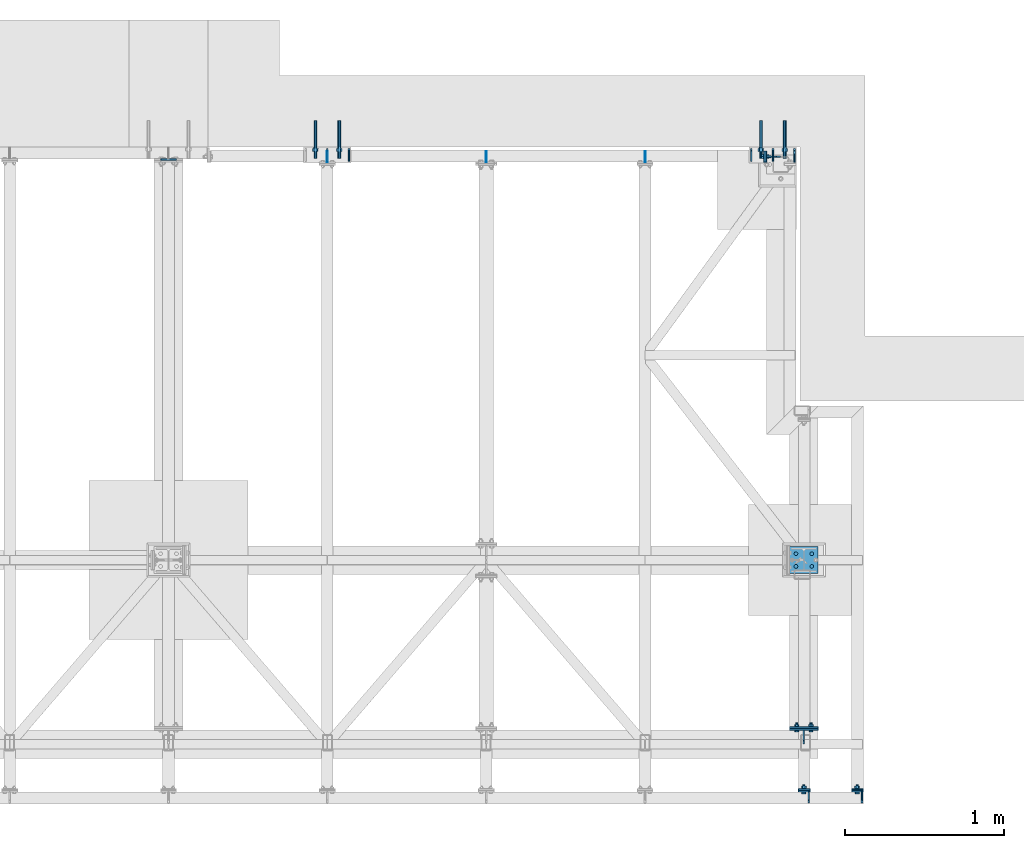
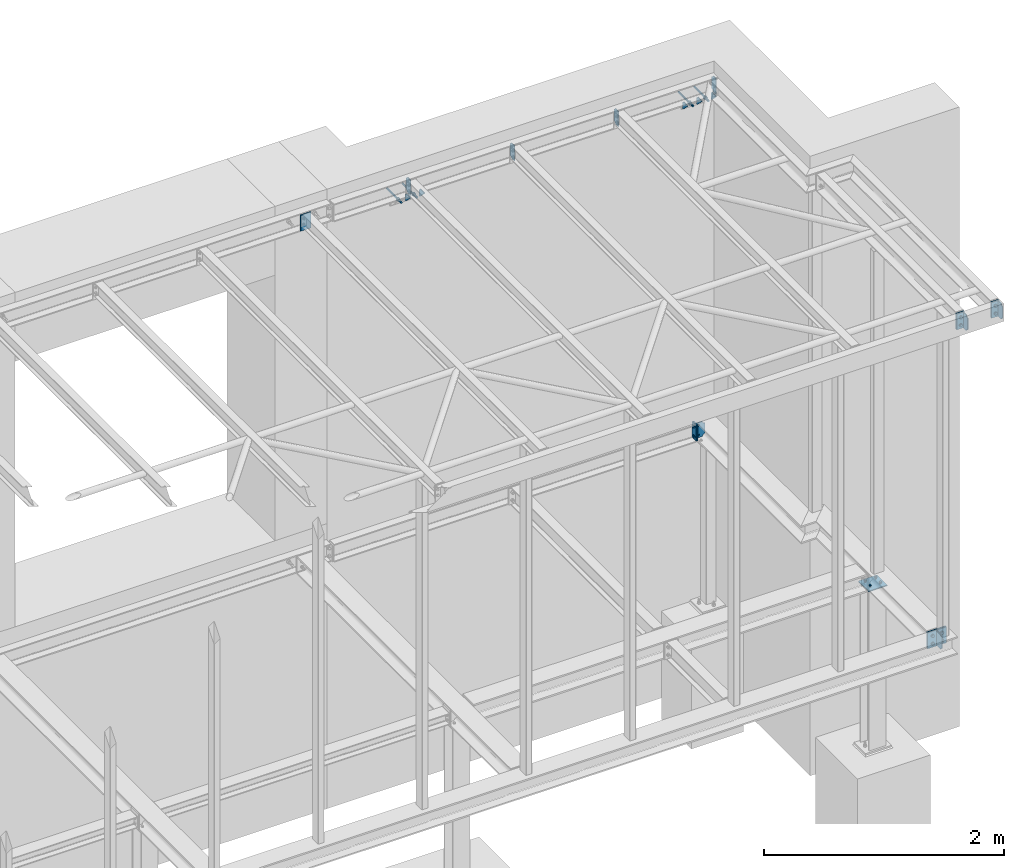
# One storey, part 21 of 23: 23 discrete accessories, 7 mechanical fasteners, 12 elements without a shape of their own.
"""IFC2X3 building model written with IfcOpenShell, lengths in millimetres."""

import ifcopenshell
import ifcopenshell.guid

model = None  # the IFC model being written
_history = None  # IfcOwnerHistory: only IFC2X3 demands one
_inside = {}  # id of a spatial element -> (the spatial element, [elements in it])
_under = {}  # id of a project, library or spatial element -> (it, [spatial elements below it])
_declared = {}  # id of a project -> (the project, [libraries it declares])
_typed = {}  # id of a type object -> (the type object, [elements of that type])
_made_of = {}  # id of a material, layer set ... -> (it, [elements and type objects made of it])


def new_model(schema):
    """Start an empty IFC model of exactly this schema.

    Asked for "IFC4X3", IfcOpenShell would pick the latest addendum, in which some entities
    have other attributes; the version numbers below select the first issue.
    IFC2X3 requires an IfcOwnerHistory on every rooted entity: one is made here for all.
    """
    global model, _history
    if schema == "IFC4X3":
        model = ifcopenshell.file(schema_version=(4, 3, 0, 0))
    else:
        model = ifcopenshell.file(schema=schema)
    _inside.clear()
    _under.clear()
    _declared.clear()
    _typed.clear()
    _made_of.clear()
    _history = None
    if model.schema == "IFC2X3":
        org = make("IfcOrganization", Name="unknown")
        user = make(
            "IfcPersonAndOrganization",
            ThePerson=make("IfcPerson", FamilyName="unknown"),
            TheOrganization=org,
        )
        app = make(
            "IfcApplication",
            ApplicationDeveloper=org,
            Version="unknown",
            ApplicationFullName="unknown",
            ApplicationIdentifier="unknown",
        )
        _history = make(
            "IfcOwnerHistory",
            OwningUser=user,
            OwningApplication=app,
            ChangeAction="ADDED",
            CreationDate=0,
        )
    return model


def make(cls, **values):
    """One entity of the class cls with the attributes given. An attribute that is None is left unset."""
    return model.create_entity(
        cls, **{name: value for name, value in values.items() if value is not None}
    )


def rooted(cls, **values):
    """An entity with a GlobalId (a new one), such as an element, a storey or a relation."""
    return make(cls, GlobalId=ifcopenshell.guid.new(), OwnerHistory=_history, **values)


def si_unit(unit_type, name, prefix=None):
    """IfcSIUnit, for example si_unit("LENGTHUNIT", "METRE", prefix="MILLI")."""
    return make("IfcSIUnit", UnitType=unit_type, Prefix=prefix, Name=name)


def assignment(units):
    """IfcUnitAssignment: the units of a project."""
    return None if units is None else make("IfcUnitAssignment", Units=units)


def point(xyz):
    """IfcCartesianPoint."""
    return None if xyz is None else make("IfcCartesianPoint", Coordinates=xyz)


def direction(xyz):
    """IfcDirection."""
    return None if xyz is None else make("IfcDirection", DirectionRatios=xyz)


def frame(location, z_axis=None, x_axis=None):
    """IfcAxis2Placement3D, a coordinate frame: its origin and axes. An axis left out is left unset."""
    return make(
        "IfcAxis2Placement3D",
        Location=point(location),
        Axis=direction(z_axis),
        RefDirection=direction(x_axis),
    )


def frame_2d(location, x_axis=None):
    """IfcAxis2Placement2D, a coordinate frame in the plane: its origin and x axis."""
    return make(
        "IfcAxis2Placement2D", Location=point(location), RefDirection=direction(x_axis)
    )


def origin_with_axes():
    """The frame at (0, 0, 0) with the z axis (0, 0, 1) and the x axis (1, 0, 0) written out."""
    return frame((0.0, 0.0, 0.0), z_axis=(0.0, 0.0, 1.0), x_axis=(1.0, 0.0, 0.0))


def origin_2d_with_axis():
    """The frame at (0, 0) in the plane with the x axis (1, 0) written out."""
    return frame_2d((0.0, 0.0), x_axis=(1.0, 0.0))


def place(relative_to, where):
    """IfcLocalPlacement: puts the frame where relative to a parent placement (None: the world)."""
    return make(
        "IfcLocalPlacement", PlacementRelTo=relative_to, RelativePlacement=where
    )


def context(
    kind, dimensions, precision=None, world=None, true_north=None, identifier=None
):
    """IfcGeometricRepresentationContext, for example the 3D "Model" context."""
    return make(
        "IfcGeometricRepresentationContext",
        ContextIdentifier=identifier,
        ContextType=kind,
        CoordinateSpaceDimension=dimensions,
        Precision=precision,
        WorldCoordinateSystem=world,
        TrueNorth=true_north,
    )


def subcontext(parent, identifier, kind, view, scale=None):
    """IfcGeometricRepresentationSubContext, for example "Body" below "Model"."""
    return make(
        "IfcGeometricRepresentationSubContext",
        ContextIdentifier=identifier,
        ContextType=kind,
        ParentContext=parent,
        TargetScale=scale,
        TargetView=view,
    )


def project(units=None, contexts=None):
    """IfcProject with its units and contexts."""
    return rooted(
        "IfcProject",
        Name="project",
        RepresentationContexts=contexts,
        UnitsInContext=assignment(units),
    )


def spatial(cls, under=None, at=None, **own):
    """A site, building, storey or space (cls), placed at a placement, below another one or the project."""
    s = rooted(cls, ObjectPlacement=at, **own)
    if under is not None:
        _under.setdefault(under.id(), (under, []))[1].append(s)
    return s


def polyline(points):
    """IfcPolyline through the points."""
    return make("IfcPolyline", Points=[point(p) for p in points])


def circle_curve(where, radius):
    """IfcCircle in the frame where."""
    return make("IfcCircle", Position=where, Radius=radius)


def parameter(value):
    """IfcParameterValue: where a trimmed curve begins or ends, as a parameter of its basis curve."""
    return model.create_entity("IfcParameterValue", value)


def trimmed(basis, trim1, trim2, sense, master):
    """IfcTrimmedCurve: the piece of a basis curve between two trims."""
    return make(
        "IfcTrimmedCurve",
        BasisCurve=basis,
        Trim1=trim1,
        Trim2=trim2,
        SenseAgreement=sense,
        MasterRepresentation=master,
    )


def segment(curve, same_sense, transition):
    """IfcCompositeCurveSegment."""
    return make(
        "IfcCompositeCurveSegment",
        Transition=transition,
        SameSense=same_sense,
        ParentCurve=curve,
    )


def composite_curve(segments, self_intersect=None):
    """IfcCompositeCurve: segments joined end to end."""
    return make("IfcCompositeCurve", Segments=segments, SelfIntersect=self_intersect)


def profile(cls, at=None, kind="AREA", **sizes):
    """A parametric profile (cls). Its sizes go by their IFC names, for example OverallWidth=200.0."""
    return make(cls, ProfileType=kind, Position=at, **sizes)


def circle(**sizes):
    """IfcCircleProfileDef."""
    return profile("IfcCircleProfileDef", **sizes)


def outline(outer, holes=None, kind="AREA"):
    """IfcArbitraryClosedProfileDef: a profile drawn as a closed curve; with holes, ...WithVoids."""
    if holes is None:
        return make("IfcArbitraryClosedProfileDef", ProfileType=kind, OuterCurve=outer)
    return make(
        "IfcArbitraryProfileDefWithVoids",
        ProfileType=kind,
        OuterCurve=outer,
        InnerCurves=holes,
    )


def extrude(swept, where, along, depth):
    """IfcExtrudedAreaSolid: the profile swept, set in the frame where, extruded along a direction by depth."""
    return make(
        "IfcExtrudedAreaSolid",
        SweptArea=swept,
        Position=where,
        ExtrudedDirection=direction(along),
        Depth=depth,
    )


def shape(context_of_items, identifier, shape_type, items):
    """IfcShapeRepresentation: the items that make up one representation, for example the "Body"."""
    return make(
        "IfcShapeRepresentation",
        ContextOfItems=context_of_items,
        RepresentationIdentifier=identifier,
        RepresentationType=shape_type,
        Items=items,
    )


def source(mapping_origin, context_of_items, identifier, shape_type, items):
    """IfcRepresentationMap: a shape defined once, which mapped items show again and again."""
    return make(
        "IfcRepresentationMap",
        MappingOrigin=mapping_origin,
        MappedRepresentation=shape(context_of_items, identifier, shape_type, items),
    )


def transform(
    local_origin,
    x_axis=None,
    y_axis=None,
    z_axis=None,
    scale=None,
    scale2=None,
    scale3=None,
    uniform=True,
):
    """IfcCartesianTransformationOperator3D, or its non-uniform kind. x_axis, y_axis, z_axis: its Axis1, 2, 3."""
    if uniform:
        return make(
            "IfcCartesianTransformationOperator3D",
            Axis1=direction(x_axis),
            Axis2=direction(y_axis),
            LocalOrigin=point(local_origin),
            Scale=scale,
            Axis3=direction(z_axis),
        )
    return make(
        "IfcCartesianTransformationOperator3DnonUniform",
        Axis1=direction(x_axis),
        Axis2=direction(y_axis),
        LocalOrigin=point(local_origin),
        Scale=scale,
        Axis3=direction(z_axis),
        Scale2=scale2,
        Scale3=scale3,
    )


def mapped(mapping_source, mapping_target):
    """IfcMappedItem: shows the shape of a source again, moved by a transform."""
    return make(
        "IfcMappedItem", MappingSource=mapping_source, MappingTarget=mapping_target
    )


def material(Name=None, Category=None):
    """IfcMaterial."""
    return make("IfcMaterial", Name=Name, Category=Category)


def made_of(thing, what):
    """Note that an element or type object is made of a material, layer set ...; save() writes the relation."""
    if what is not None:
        _made_of.setdefault(what.id(), (what, []))[1].append(thing)
    return thing


def type_object(cls, material=None, **own):
    """A type object (cls), such as IfcWallType, which elements share."""
    return made_of(rooted(cls, **own), material)


def element(
    cls,
    number,
    at=None,
    inside=None,
    cuts=None,
    type_object=None,
    material=None,
    context=None,
    identifier="Body",
    shape_type=None,
    held_by="IfcProductDefinitionShape",
    body=None,
    shapes=None,
    **own,
):
    """One element of the class cls, such as IfcWall. Its Tag is "e" and its number.

    at: its placement. inside: the storey or other place that contains it. cuts: it is an
    opening in that element (IfcRelVoidsElement). A single representation is given by context,
    identifier, shape_type and body (its items); several are given by shapes. held_by: the class
    of the entity that holds the representations. save() writes the other relations.
    """
    e = rooted(cls, Tag="e%d" % number, ObjectPlacement=at, **own)
    if body is not None:
        shapes = [shape(context, identifier, shape_type, body)]
    if shapes is not None:
        e.Representation = make(held_by, Representations=shapes)
    if inside is not None:
        _inside.setdefault(inside.id(), (inside, []))[1].append(e)
    if cuts is not None:
        rooted(
            "IfcRelVoidsElement", RelatingBuildingElement=cuts, RelatedOpeningElement=e
        )
    if type_object is not None:
        _typed.setdefault(type_object.id(), (type_object, []))[1].append(e)
    return made_of(e, material)


def aggregate(whole, parts):
    """IfcRelAggregates: a whole, such as a stair, and the parts it consists of."""
    return rooted("IfcRelAggregates", RelatingObject=whole, RelatedObjects=parts)


def save(model, path):
    """Write the relations noted so far, then the file.

    IfcRelAggregates (storeys below a building ...), IfcRelContainedInSpatialStructure (elements
    in a storey), IfcRelDefinesByType, IfcRelAssociatesMaterial and IfcRelDeclares: one each for
    every whole, place, type object, material and project.
    """
    for whole, parts in _under.values():
        aggregate(whole, parts)
    for where, things in _inside.values():
        rooted(
            "IfcRelContainedInSpatialStructure",
            RelatedElements=things,
            RelatingStructure=where,
        )
    for kind, things in _typed.values():
        rooted("IfcRelDefinesByType", RelatedObjects=things, RelatingType=kind)
    for what, things in _made_of.values():
        rooted("IfcRelAssociatesMaterial", RelatedObjects=things, RelatingMaterial=what)
    for by, libraries in _declared.values():
        rooted("IfcRelDeclares", RelatingContext=by, RelatedDefinitions=libraries)
    model.write(path)


model = new_model("IFC2X3")

# Units and contexts
model_context = context("Model", 3, precision=1e-05, world=origin_with_axes())
body_context = subcontext(model_context, "Body", "Model", "MODEL_VIEW")
ifc_project = project(units=[si_unit("LENGTHUNIT", "METRE", prefix="MILLI"), si_unit("AREAUNIT", "SQUARE_METRE"), si_unit("VOLUMEUNIT", "CUBIC_METRE"), si_unit("MASSUNIT", "GRAM", prefix="KILO"), si_unit("TIMEUNIT", "SECOND"), si_unit("PLANEANGLEUNIT", "RADIAN"), si_unit("SOLIDANGLEUNIT", "STERADIAN"), si_unit("THERMODYNAMICTEMPERATUREUNIT", "DEGREE_CELSIUS"), si_unit("LUMINOUSINTENSITYUNIT", "LUMEN")], contexts=[model_context])

# Site, building, storey
site_placement = place(None, origin_with_axes())
site = spatial("IfcSite", under=ifc_project, at=site_placement, Name="Undefined", CompositionType="ELEMENT")
building_placement = place(site_placement, origin_with_axes())
building = spatial("IfcBuilding", under=site, at=building_placement, Name="Undefined", CompositionType="ELEMENT")
storey_placement = place(building_placement, origin_with_axes())
storey = spatial("IfcBuildingStorey", under=building, at=storey_placement, Name="Undefined", CompositionType="ELEMENT", Elevation=0.0)

# Assembly, mechanical fasteners, discrete accessory
assembly_1_placement = place(storey_placement, origin_with_axes())
assembly_1 = element("IfcElementAssembly", 1, at=assembly_1_placement, inside=storey, Name="Steel Assembly", AssemblyPlace="NOTDEFINED", PredefinedType="RIGID_FRAME")
ifc_material_1 = material(Name="Undefined")
discrete_accessory_type_1 = type_object("IfcDiscreteAccessoryType", Name="Bolt assembly")
shared_shape_1 = source(origin_with_axes(), body_context, "Body", "SweptSolid", [
    extrude(circle(Radius=9.0, at=origin_2d_with_axis()), frame((0.0, -10.1, 0.0), z_axis=(0.0, 1.0, 0.0), x_axis=(1.0, 0.0, 0.0)), (0.0, 0.0, 1.0), 10.1),
    extrude(circle(Radius=9.0, at=origin_2d_with_axis()), frame((0.0, -19.9, 0.0), z_axis=(0.0, 1.0, 0.0), x_axis=(1.0, 0.0, 0.0)), (0.0, 0.0, 1.0), 10.0),
    extrude(outline(polyline([(13.85640646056, 0.0), (6.92820323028, 12.0000000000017), (-6.92820323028, 12.0000000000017), (-13.85640646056, 0.0), (-6.92820323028, -12.0000000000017), (6.92820323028, -12.0000000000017), (13.85640646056, 0.0)])), frame((0.0, -33.0, 0.0), z_axis=(0.0, 1.0, 0.0), x_axis=(1.0, 0.0, 0.0)), (0.0, 0.0, 1.0), 10.0),
    extrude(circle(Radius=8.0, at=origin_2d_with_axis()), frame((0.0, -23.0, 0.0), z_axis=(0.0, 1.0, 0.0), x_axis=(1.0, 0.0, 0.0)), (0.0, 0.0, 1.0), 50.0),
    extrude(circle(Radius=15.0, at=origin_2d_with_axis()), frame((0.0, -23.0, 0.0), z_axis=(0.0, 1.0, 0.0), x_axis=(1.0, 0.0, 0.0)), (0.0, 0.0, 1.0), 3.0),
    extrude(circle(Radius=15.0, at=origin_2d_with_axis()), frame((0.0, 0.0, 0.0), z_axis=(0.0, 1.0, 0.0), x_axis=(1.0, 0.0, 0.0)), (0.0, 0.0, 1.0), 3.0),
    extrude(outline(polyline([(15.4441197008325, 0.0), (7.72205985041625, 13.3750000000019), (-7.72205985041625, 13.3750000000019), (-15.4441197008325, 0.0), (-7.72205985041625, -13.3750000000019), (7.72205985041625, -13.3750000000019), (15.4441197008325, 0.0)])), frame((0.0, 3.0, 0.0), z_axis=(0.0, 1.0, 0.0), x_axis=(1.0, 0.0, 0.0)), (0.0, 0.0, 1.0), 13.0),
])
mechanical_fastener_1_placement = place(assembly_1_placement, frame((16385.0, -180.0, 3210.0), z_axis=(0.0, 0.0, 1.0), x_axis=(1.0, 0.0, 0.0)))
mechanical_fastener_1 = element("IfcMechanicalFastener", 2, at=mechanical_fastener_1_placement, type_object=discrete_accessory_type_1, material=ifc_material_1, Name="Bolt assembly", NominalDiameter=16.0, NominalLength=50.0, context=body_context, shape_type="MappedRepresentation", body=[
    mapped(shared_shape_1, transform((0.0, 0.0, -40.0))),
    mapped(shared_shape_1, transform((0.0, 0.0, 40.0))),
])
mechanical_fastener_2_placement = place(assembly_1_placement, frame((16050.0, -180.0, 3210.0), z_axis=(0.0, 0.0, 1.0), x_axis=(1.0, 0.0, 0.0)))
mechanical_fastener_2 = element("IfcMechanicalFastener", 3, at=mechanical_fastener_2_placement, type_object=discrete_accessory_type_1, material=ifc_material_1, Name="Bolt assembly", NominalDiameter=16.0, NominalLength=50.0, context=body_context, shape_type="MappedRepresentation", body=[
    mapped(shared_shape_1, transform((0.0, 0.0, -40.0))),
    mapped(shared_shape_1, transform((0.0, 0.0, 40.0))),
])
ifc_material_2 = material(Name="STEEL/S235JR")
discrete_accessory_type_2 = type_object("IfcDiscreteAccessoryType", Name="PLECH")
discrete_accessory_1_placement = place(assembly_1_placement, frame((16415.5, -200.0, 3289.5), z_axis=(1.0, 0.0, 0.0), x_axis=(0.0, -1.0, 0.0)))
discrete_accessory_1 = element("IfcDiscreteAccessory", 4, at=discrete_accessory_1_placement, type_object=discrete_accessory_type_2, material=ifc_material_2, Name="PLECH", ObjectType="PL8*70", context=body_context, shape_type="SweptSolid", body=[
    extrude(outline(composite_curve([segment(polyline([(0.0, 0.0), (49.5, 0.0)]), True, "CONTINUOUS"), segment(trimmed(circle_curve(frame_2d((69.5, 0.0), x_axis=(-1.0, 0.0)), 20.0), [parameter(0.0)], [parameter(4.71238898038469)], False, "PARAMETER"), True, "CONTINUOUS"), segment(polyline([(69.5, 20.0), (69.5, 139.0)]), True, "CONTINUOUS"), segment(trimmed(circle_curve(frame_2d((69.5, 159.0), x_axis=(0.0, -1.0)), 20.0), [parameter(0.0)], [parameter(4.71238898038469)], False, "PARAMETER"), True, "CONTINUOUS"), segment(polyline([(49.5, 159.0), (0.0, 159.0), (0.0, 0.0)]), True, "DISCONTINUOUS")], self_intersect=False)), frame((0.0, 0.0, -4.0), z_axis=(0.0, 0.0, 1.0), x_axis=(1.0, 0.0, 0.0)), (0.0, 0.0, 1.0), 8.0),
])

# Assembly, discrete accessory
assembly_2_placement = place(storey_placement, origin_with_axes())
assembly_2 = element("IfcElementAssembly", 5, at=assembly_2_placement, inside=storey, Name="Steel Assembly", AssemblyPlace="NOTDEFINED", PredefinedType="RIGID_FRAME")
discrete_accessory_2_placement = place(assembly_2_placement, frame((16350.0, -185.0, 3130.0), z_axis=(0.0, 1.0, 0.0), x_axis=(0.0, 0.0, 1.0)))
discrete_accessory_2 = element("IfcDiscreteAccessory", 6, at=discrete_accessory_2_placement, type_object=discrete_accessory_type_2, material=ifc_material_2, Name="PLECH", ObjectType="PL10*75", context=body_context, shape_type="SweptSolid", body=[
    extrude(outline(polyline([(0.0, 0.0), (160.0, 0.0), (160.0, 75.0), (0.0, 75.0), (0.0, 0.0)])), frame((0.0, 0.0, -5.0), z_axis=(0.0, 0.0, 1.0), x_axis=(1.0, 0.0, 0.0)), (0.0, 0.0, 1.0), 10.0),
])
aggregate(assembly_2, [discrete_accessory_2])

# Discrete accessory
discrete_accessory_3_placement = place(assembly_1_placement, frame((16350.0, -195.0, 3130.0), z_axis=(0.0, 1.0, 0.0), x_axis=(0.0, 0.0, 1.0)))
discrete_accessory_3 = element("IfcDiscreteAccessory", 7, at=discrete_accessory_3_placement, type_object=discrete_accessory_type_2, material=ifc_material_2, Name="PLECH", ObjectType="PL10*75", context=body_context, shape_type="SweptSolid", body=[
    extrude(outline(polyline([(0.0, 0.0), (160.0, 0.0), (160.0, 75.0), (0.0, 75.0), (0.0, 0.0)])), frame((0.0, 0.0, -5.0), z_axis=(0.0, 0.0, 1.0), x_axis=(1.0, 0.0, 0.0)), (0.0, 0.0, 1.0), 10.0),
])

# Assembly, discrete accessories
assembly_3_placement = place(storey_placement, origin_with_axes())
assembly_3 = element("IfcElementAssembly", 8, at=assembly_3_placement, inside=storey, Name="Steel Assembly", AssemblyPlace="NOTDEFINED", PredefinedType="RIGID_FRAME")
discrete_accessory_4_placement = place(assembly_3_placement, frame((13050.0, 3770.0, 3110.0), z_axis=(-1.0, 0.0, 0.0), x_axis=(0.0, 1.0, 0.0)))
discrete_accessory_4 = element("IfcDiscreteAccessory", 9, at=discrete_accessory_4_placement, type_object=discrete_accessory_type_2, material=ifc_material_2, Name="PLECH", ObjectType="PL8*80", context=body_context, shape_type="SweptSolid", body=[
    extrude(outline(composite_curve([segment(polyline([(0.0, 0.0), (65.0, 0.0)]), True, "CONTINUOUS"), segment(trimmed(circle_curve(frame_2d((80.0, 0.0), x_axis=(-1.0, 0.0)), 15.0), [parameter(0.0)], [parameter(4.71238898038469)], False, "PARAMETER"), True, "CONTINUOUS"), segment(polyline([(80.0, 15.0), (80.0, 80.0), (70.0, 80.0), (0.0, 10.0), (0.0, 0.0)]), True, "DISCONTINUOUS")], self_intersect=False)), frame((0.0, 0.0, -4.0), z_axis=(0.0, 0.0, 1.0), x_axis=(1.0, 0.0, 0.0)), (0.0, 0.0, 1.0), 8.0),
])
discrete_accessory_5_placement = place(assembly_3_placement, frame((13186.0, 3770.0, 3110.0), z_axis=(-1.0, 0.0, 0.0), x_axis=(0.0, 1.0, 0.0)))
discrete_accessory_5 = element("IfcDiscreteAccessory", 10, at=discrete_accessory_5_placement, type_object=discrete_accessory_type_2, material=ifc_material_2, Name="PLECH", ObjectType="PL8*80", context=body_context, shape_type="SweptSolid", body=[
    extrude(outline(composite_curve([segment(polyline([(0.0, 0.0), (65.0, 0.0)]), True, "CONTINUOUS"), segment(trimmed(circle_curve(frame_2d((80.0, 0.0), x_axis=(-1.0, 0.0)), 15.0), [parameter(0.0)], [parameter(4.71238898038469)], False, "PARAMETER"), True, "CONTINUOUS"), segment(polyline([(80.0, 15.0), (80.0, 80.0), (70.0, 80.0), (0.0, 10.0), (0.0, 0.0)]), True, "DISCONTINUOUS")], self_intersect=False)), frame((0.0, 0.0, -4.0), z_axis=(0.0, 0.0, 1.0), x_axis=(1.0, 0.0, 0.0)), (0.0, 0.0, 1.0), 8.0),
])

assembly_4_placement = place(storey_placement, origin_with_axes())
assembly_4 = element("IfcElementAssembly", 11, at=assembly_4_placement, inside=storey, Name="Steel Assembly", AssemblyPlace="NOTDEFINED", PredefinedType="RIGID_FRAME")
discrete_accessory_6_placement = place(assembly_4_placement, frame((15855.0, 3770.0, 3110.0), z_axis=(-1.0, 0.0, 0.0), x_axis=(0.0, 1.0, 0.0)))
discrete_accessory_6 = element("IfcDiscreteAccessory", 12, at=discrete_accessory_6_placement, type_object=discrete_accessory_type_2, material=ifc_material_2, Name="PLECH", ObjectType="PL8*80", context=body_context, shape_type="SweptSolid", body=[
    extrude(outline(composite_curve([segment(polyline([(0.0, 0.0), (65.0, 0.0)]), True, "CONTINUOUS"), segment(trimmed(circle_curve(frame_2d((80.0, 0.0), x_axis=(-1.0, 0.0)), 15.0), [parameter(0.0)], [parameter(4.71238898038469)], False, "PARAMETER"), True, "CONTINUOUS"), segment(polyline([(80.0, 15.0), (80.0, 80.0), (70.0, 80.0), (0.0, 10.0), (0.0, 0.0)]), True, "DISCONTINUOUS")], self_intersect=False)), frame((0.0, 0.0, -4.0), z_axis=(0.0, 0.0, 1.0), x_axis=(1.0, 0.0, 0.0)), (0.0, 0.0, 1.0), 8.0),
])
discrete_accessory_7_placement = place(assembly_4_placement, frame((15991.0, 3770.0, 3110.0), z_axis=(-1.0, 0.0, 0.0), x_axis=(0.0, 1.0, 0.0)))
discrete_accessory_7 = element("IfcDiscreteAccessory", 13, at=discrete_accessory_7_placement, type_object=discrete_accessory_type_2, material=ifc_material_2, Name="PLECH", ObjectType="PL8*80", context=body_context, shape_type="SweptSolid", body=[
    extrude(outline(composite_curve([segment(polyline([(0.0, 0.0), (65.0, 0.0)]), True, "CONTINUOUS"), segment(trimmed(circle_curve(frame_2d((80.0, 0.0), x_axis=(-1.0, 0.0)), 15.0), [parameter(0.0)], [parameter(4.71238898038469)], False, "PARAMETER"), True, "CONTINUOUS"), segment(polyline([(80.0, 15.0), (80.0, 80.0), (70.0, 80.0), (0.0, 10.0), (0.0, 0.0)]), True, "DISCONTINUOUS")], self_intersect=False)), frame((0.0, 0.0, -4.0), z_axis=(0.0, 0.0, 1.0), x_axis=(1.0, 0.0, 0.0)), (0.0, 0.0, 1.0), 8.0),
])
discrete_accessory_8_placement = place(assembly_4_placement, frame((15719.0, 3770.0, 3110.0), z_axis=(-1.0, 0.0, 0.0), x_axis=(0.0, 1.0, 0.0)))
discrete_accessory_8 = element("IfcDiscreteAccessory", 14, at=discrete_accessory_8_placement, type_object=discrete_accessory_type_2, material=ifc_material_2, Name="PLECH", ObjectType="PL8*80", context=body_context, shape_type="SweptSolid", body=[
    extrude(outline(composite_curve([segment(polyline([(0.0, 0.0), (65.0, 0.0)]), True, "CONTINUOUS"), segment(trimmed(circle_curve(frame_2d((80.0, 0.0), x_axis=(-1.0, 0.0)), 15.0), [parameter(0.0)], [parameter(4.71238898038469)], False, "PARAMETER"), True, "CONTINUOUS"), segment(polyline([(80.0, 15.0), (80.0, 80.0), (70.0, 80.0), (0.0, 10.0), (0.0, 0.0)]), True, "DISCONTINUOUS")], self_intersect=False)), frame((0.0, 0.0, -4.0), z_axis=(0.0, 0.0, 1.0), x_axis=(1.0, 0.0, 0.0)), (0.0, 0.0, 1.0), 8.0),
])

# Assembly, discrete accessory
assembly_5_placement = place(storey_placement, origin_with_axes())
assembly_5 = element("IfcElementAssembly", 15, at=assembly_5_placement, inside=storey, Name="Steel Assembly", AssemblyPlace="NOTDEFINED", PredefinedType="RIGID_FRAME")
discrete_accessory_9_placement = place(assembly_5_placement, frame((15990.5, 3765.0, 3289.5), z_axis=(-1.0, 0.0, 0.0), x_axis=(0.0, 1.0, 0.0)))
discrete_accessory_9 = element("IfcDiscreteAccessory", 16, at=discrete_accessory_9_placement, type_object=discrete_accessory_type_2, material=ifc_material_2, Name="PLECH", ObjectType="PL8*70", context=body_context, shape_type="SweptSolid", body=[
    extrude(outline(composite_curve([segment(polyline([(0.0, 0.0), (49.5, 0.0)]), True, "CONTINUOUS"), segment(trimmed(circle_curve(frame_2d((69.5, 0.0), x_axis=(-1.0, 0.0)), 20.0), [parameter(0.0)], [parameter(4.71238898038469)], False, "PARAMETER"), True, "CONTINUOUS"), segment(polyline([(69.5, 20.0), (69.5, 139.0)]), True, "CONTINUOUS"), segment(trimmed(circle_curve(frame_2d((69.5, 159.0), x_axis=(0.0, -1.0)), 20.0), [parameter(0.0)], [parameter(4.71238898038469)], False, "PARAMETER"), True, "CONTINUOUS"), segment(polyline([(49.5, 159.0), (0.0, 159.0), (0.0, 0.0)]), True, "DISCONTINUOUS")], self_intersect=False)), frame((0.0, 0.0, -4.0), z_axis=(0.0, 0.0, 1.0), x_axis=(1.0, 0.0, 0.0)), (0.0, 0.0, 1.0), 8.0),
])

# Assembly, discrete accessories
assembly_6_placement = place(storey_placement, origin_with_axes())
assembly_6 = element("IfcElementAssembly", 17, at=assembly_6_placement, inside=storey, Name="Steel Assembly", AssemblyPlace="NOTDEFINED", PredefinedType="RIGID_FRAME")
discrete_accessory_10_placement = place(assembly_6_placement, frame((15815.0, 3799.75, -174.0), z_axis=(0.0, 1.0, 0.0), x_axis=(1.0, 0.0, 0.0)))
discrete_accessory_10 = element("IfcDiscreteAccessory", 18, at=discrete_accessory_10_placement, type_object=discrete_accessory_type_2, material=ifc_material_2, Name="PLECH", ObjectType="PL8*86", context=body_context, shape_type="SweptSolid", body=[
    extrude(outline(composite_curve([segment(polyline([(0.0, 0.0), (60.5, 0.0)]), True, "CONTINUOUS"), segment(trimmed(circle_curve(frame_2d((85.5, 0.0), x_axis=(-1.0, 0.0)), 25.0), [parameter(0.0)], [parameter(4.71238898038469)], False, "PARAMETER"), True, "CONTINUOUS"), segment(polyline([(85.5, 25.0), (85.5, 127.0)]), True, "CONTINUOUS"), segment(trimmed(circle_curve(frame_2d((85.5, 152.0), x_axis=(0.0, -1.0)), 25.0), [parameter(0.0)], [parameter(4.71238898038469)], False, "PARAMETER"), True, "CONTINUOUS"), segment(polyline([(60.5, 152.0), (0.0, 152.0), (0.0, 0.0)]), True, "DISCONTINUOUS")], self_intersect=False)), frame((0.0, 0.0, -4.0), z_axis=(0.0, 0.0, 1.0), x_axis=(1.0, 0.0, 0.0)), (0.0, 0.0, 1.0), 8.0),
])
discrete_accessory_11_placement = place(assembly_6_placement, frame((15810.0, 3765.0, -170.0), z_axis=(-1.0, 0.0, 0.0), x_axis=(0.0, 1.0, 0.0)))
discrete_accessory_11 = element("IfcDiscreteAccessory", 19, at=discrete_accessory_11_placement, type_object=discrete_accessory_type_2, material=ifc_material_2, Name="PLECH", ObjectType="PL10*70", context=body_context, shape_type="SweptSolid", body=[
    extrude(outline(polyline([(0.0, 0.0), (70.0, 4.54747350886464e-13), (70.0, 160.0), (0.0, 160.0), (0.0, 0.0)])), frame((0.0, 0.0, -5.0), z_axis=(0.0, 0.0, 1.0), x_axis=(1.0, 0.0, 0.0)), (0.0, 0.0, 1.0), 10.0),
])

# Discrete accessory
discrete_accessory_12_placement = place(assembly_1_placement, frame((16080.5, -200.0, 3289.5), z_axis=(1.0, 0.0, 0.0), x_axis=(0.0, -1.0, 0.0)))
discrete_accessory_12 = element("IfcDiscreteAccessory", 20, at=discrete_accessory_12_placement, type_object=discrete_accessory_type_2, material=ifc_material_2, Name="PLECH", ObjectType="PL8*70", context=body_context, shape_type="SweptSolid", body=[
    extrude(outline(composite_curve([segment(polyline([(0.0, 0.0), (49.5, 0.0)]), True, "CONTINUOUS"), segment(trimmed(circle_curve(frame_2d((69.5, 0.0), x_axis=(-1.0, 0.0)), 20.0), [parameter(0.0)], [parameter(4.71238898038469)], False, "PARAMETER"), True, "CONTINUOUS"), segment(polyline([(69.5, 20.0), (69.5, 139.0)]), True, "CONTINUOUS"), segment(trimmed(circle_curve(frame_2d((69.5, 159.0), x_axis=(0.0, -1.0)), 20.0), [parameter(0.0)], [parameter(4.71238898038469)], False, "PARAMETER"), True, "CONTINUOUS"), segment(polyline([(49.5, 159.0), (0.0, 159.0), (0.0, 0.0)]), True, "DISCONTINUOUS")], self_intersect=False)), frame((0.0, 0.0, -4.0), z_axis=(0.0, 0.0, 1.0), x_axis=(1.0, 0.0, 0.0)), (0.0, 0.0, 1.0), 8.0),
])

# Assembly, discrete accessory
assembly_7_placement = place(storey_placement, origin_with_axes())
assembly_7 = element("IfcElementAssembly", 21, at=assembly_7_placement, inside=storey, Name="Steel Assembly", AssemblyPlace="NOTDEFINED", PredefinedType="RIGID_FRAME")
discrete_accessory_13_placement = place(assembly_7_placement, frame((16015.0, -185.0, 3130.0), z_axis=(0.0, 1.0, 0.0), x_axis=(0.0, 0.0, 1.0)))
discrete_accessory_13 = element("IfcDiscreteAccessory", 22, at=discrete_accessory_13_placement, type_object=discrete_accessory_type_2, material=ifc_material_2, Name="PLECH", ObjectType="PL10*75", context=body_context, shape_type="SweptSolid", body=[
    extrude(outline(polyline([(0.0, 0.0), (160.0, 0.0), (160.0, 75.0), (0.0, 75.0), (0.0, 0.0)])), frame((0.0, 0.0, -5.0), z_axis=(0.0, 0.0, 1.0), x_axis=(1.0, 0.0, 0.0)), (0.0, 0.0, 1.0), 10.0),
])
aggregate(assembly_7, [discrete_accessory_13])

# Discrete accessory
discrete_accessory_14_placement = place(assembly_1_placement, frame((16015.0, -195.0, 3130.0), z_axis=(0.0, 1.0, 0.0), x_axis=(0.0, 0.0, 1.0)))
discrete_accessory_14 = element("IfcDiscreteAccessory", 23, at=discrete_accessory_14_placement, type_object=discrete_accessory_type_2, material=ifc_material_2, Name="PLECH", ObjectType="PL10*75", context=body_context, shape_type="SweptSolid", body=[
    extrude(outline(polyline([(0.0, 0.0), (160.0, 0.0), (160.0, 75.0), (0.0, 75.0), (0.0, 0.0)])), frame((0.0, 0.0, -5.0), z_axis=(0.0, 0.0, 1.0), x_axis=(1.0, 0.0, 0.0)), (0.0, 0.0, 1.0), 10.0),
])

aggregate(assembly_1, [mechanical_fastener_1, discrete_accessory_1, discrete_accessory_3, mechanical_fastener_2, discrete_accessory_12, discrete_accessory_14])

# Assembly, discrete accessory
assembly_8_placement = place(storey_placement, origin_with_axes())
assembly_8 = element("IfcElementAssembly", 24, at=assembly_8_placement, inside=storey, Name="Steel Assembly", AssemblyPlace="NOTDEFINED", PredefinedType="RIGID_FRAME")
discrete_accessory_15_placement = place(assembly_8_placement, frame((16140.0, 1346.0, -345.0), z_axis=(0.0, 0.0, 1.0), x_axis=(-1.0, 0.0, 0.0)))
discrete_accessory_15 = element("IfcDiscreteAccessory", 25, at=discrete_accessory_15_placement, type_object=discrete_accessory_type_2, material=ifc_material_2, Name="PLECH", ObjectType="PL10*172", context=body_context, shape_type="SweptSolid", body=[
    extrude(outline(polyline([(0.0, 0.0), (180.0, 0.0), (180.0, 172.0), (0.0, 172.0), (0.0, 0.0)])), frame((0.0, 0.0, -5.0), z_axis=(0.0, 0.0, 1.0), x_axis=(1.0, 0.0, 0.0)), (0.0, 0.0, 1.0), 10.0),
])

# Assembly, discrete accessories
assembly_9_placement = place(storey_placement, origin_with_axes())
assembly_9 = element("IfcElementAssembly", 26, at=assembly_9_placement, inside=storey, Name="Steel Assembly", AssemblyPlace="NOTDEFINED", PredefinedType="RIGID_FRAME")
discrete_accessory_16_placement = place(assembly_9_placement, frame((15960.0, 195.0, -168.0), z_axis=(0.0, 1.0, 0.0), x_axis=(1.0, 0.0, 0.0)))
discrete_accessory_16 = element("IfcDiscreteAccessory", 27, at=discrete_accessory_16_placement, type_object=discrete_accessory_type_2, material=ifc_material_2, Name="PLECH", ObjectType="PL10*164", context=body_context, shape_type="SweptSolid", body=[
    extrude(outline(polyline([(0.0, 0.0), (180.0, 0.0), (180.0, 164.0), (0.0, 164.0), (0.0, 0.0)])), frame((0.0, 0.0, -5.0), z_axis=(0.0, 0.0, 1.0), x_axis=(1.0, 0.0, 0.0)), (0.0, 0.0, 1.0), 10.0),
])
discrete_accessory_17_placement = place(assembly_9_placement, frame((16050.0, 190.0, -174.0), z_axis=(1.0, 0.0, 0.0), x_axis=(0.0, -1.0, 0.0)))
discrete_accessory_17 = element("IfcDiscreteAccessory", 28, at=discrete_accessory_17_placement, type_object=discrete_accessory_type_2, material=ifc_material_2, Name="PLECH", ObjectType="PL8*86", context=body_context, shape_type="SweptSolid", body=[
    extrude(outline(composite_curve([segment(polyline([(0.0, 0.0), (65.75, 0.0)]), True, "CONTINUOUS"), segment(trimmed(circle_curve(frame_2d((85.75, 0.0), x_axis=(-1.0, 0.0)), 20.0), [parameter(0.0)], [parameter(4.71238898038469)], False, "PARAMETER"), True, "CONTINUOUS"), segment(polyline([(85.75, 20.0), (85.75, 132.0)]), True, "CONTINUOUS"), segment(trimmed(circle_curve(frame_2d((85.75, 152.0), x_axis=(0.0, -1.0)), 20.0), [parameter(0.0)], [parameter(4.71238898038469)], False, "PARAMETER"), True, "CONTINUOUS"), segment(polyline([(65.75, 152.0), (0.0, 152.0), (0.0, 0.0)]), True, "DISCONTINUOUS")], self_intersect=False)), frame((0.0, 0.0, -4.0), z_axis=(0.0, 0.0, 1.0), x_axis=(1.0, 0.0, 0.0)), (0.0, 0.0, 1.0), 8.0),
])

# Assembly, discrete accessory
assembly_10_placement = place(storey_placement, origin_with_axes())
assembly_10 = element("IfcElementAssembly", 29, at=assembly_10_placement, inside=storey, Name="Steel Assembly", AssemblyPlace="NOTDEFINED", PredefinedType="RIGID_FRAME")
discrete_accessory_18_placement = place(assembly_10_placement, frame((15960.0, 205.0, -168.0), z_axis=(0.0, 1.0, 0.0), x_axis=(1.0, 0.0, 0.0)))
discrete_accessory_18 = element("IfcDiscreteAccessory", 30, at=discrete_accessory_18_placement, type_object=discrete_accessory_type_2, material=ifc_material_2, Name="PLECH", ObjectType="PL10*164", context=body_context, shape_type="SweptSolid", body=[
    extrude(outline(polyline([(0.0, 0.0), (180.0, 0.0), (180.0, 164.0), (0.0, 164.0), (0.0, 0.0)])), frame((0.0, 0.0, -5.0), z_axis=(0.0, 0.0, 1.0), x_axis=(1.0, 0.0, 0.0)), (0.0, 0.0, 1.0), 10.0),
])
aggregate(assembly_10, [discrete_accessory_18])

assembly_11_placement = place(storey_placement, origin_with_axes())
assembly_11 = element("IfcElementAssembly", 31, at=assembly_11_placement, inside=storey, Name="Steel Assembly", AssemblyPlace="NOTDEFINED", PredefinedType="RIGID_FRAME")
discrete_accessory_19_placement = place(assembly_11_placement, frame((15801.0, 3765.0, -170.0), z_axis=(-1.0, 0.0, 0.0), x_axis=(0.0, 1.0, 0.0)))
discrete_accessory_19 = element("IfcDiscreteAccessory", 32, at=discrete_accessory_19_placement, type_object=discrete_accessory_type_2, material=ifc_material_2, Name="PLECH", ObjectType="PL8*70", context=body_context, shape_type="SweptSolid", body=[
    extrude(outline(polyline([(0.0, 0.0), (70.0, 4.54747350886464e-13), (70.0, 160.0), (0.0, 160.0), (0.0, 0.0)])), frame((0.0, 0.0, -4.0), z_axis=(0.0, 0.0, 1.0), x_axis=(1.0, 0.0, 0.0)), (0.0, 0.0, 1.0), 8.0),
])
aggregate(assembly_11, [discrete_accessory_19])

# Discrete accessory
discrete_accessory_20_placement = place(assembly_5_placement, frame((15050.0, 3765.0, 3289.5), z_axis=(-1.0, 0.0, 0.0), x_axis=(0.0, 1.0, 0.0)))
discrete_accessory_20 = element("IfcDiscreteAccessory", 33, at=discrete_accessory_20_placement, type_object=discrete_accessory_type_2, material=ifc_material_2, Name="PLECH", ObjectType="PL6*70", context=body_context, shape_type="SweptSolid", body=[
    extrude(outline(composite_curve([segment(polyline([(0.0, 0.0), (49.5, 0.0)]), True, "CONTINUOUS"), segment(trimmed(circle_curve(frame_2d((69.5, 0.0), x_axis=(-1.0, 0.0)), 20.0), [parameter(0.0)], [parameter(4.71238898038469)], False, "PARAMETER"), True, "CONTINUOUS"), segment(polyline([(69.5, 20.0), (69.5, 139.0)]), True, "CONTINUOUS"), segment(trimmed(circle_curve(frame_2d((69.5, 159.0), x_axis=(0.0, -1.0)), 20.0), [parameter(0.0)], [parameter(4.71238898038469)], False, "PARAMETER"), True, "CONTINUOUS"), segment(polyline([(49.5, 159.0), (0.0, 159.0), (0.0, 0.0)]), True, "DISCONTINUOUS")], self_intersect=False)), frame((0.0, 0.0, -3.0), z_axis=(0.0, 0.0, 1.0), x_axis=(1.0, 0.0, 0.0)), (0.0, 0.0, 1.0), 6.0),
])

discrete_accessory_21_placement = place(assembly_5_placement, frame((14050.0, 3765.0, 3289.5), z_axis=(-1.0, 0.0, 0.0), x_axis=(0.0, 1.0, 0.0)))
discrete_accessory_21 = element("IfcDiscreteAccessory", 34, at=discrete_accessory_21_placement, type_object=discrete_accessory_type_2, material=ifc_material_2, Name="PLECH", ObjectType="PL6*70", context=body_context, shape_type="SweptSolid", body=[
    extrude(outline(composite_curve([segment(polyline([(0.0, 0.0), (49.5, 0.0)]), True, "CONTINUOUS"), segment(trimmed(circle_curve(frame_2d((69.5, 0.0), x_axis=(-1.0, 0.0)), 20.0), [parameter(0.0)], [parameter(4.71238898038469)], False, "PARAMETER"), True, "CONTINUOUS"), segment(polyline([(69.5, 20.0), (69.5, 139.0)]), True, "CONTINUOUS"), segment(trimmed(circle_curve(frame_2d((69.5, 159.0), x_axis=(0.0, -1.0)), 20.0), [parameter(0.0)], [parameter(4.71238898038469)], False, "PARAMETER"), True, "CONTINUOUS"), segment(polyline([(49.5, 159.0), (0.0, 159.0), (0.0, 0.0)]), True, "DISCONTINUOUS")], self_intersect=False)), frame((0.0, 0.0, -3.0), z_axis=(0.0, 0.0, 1.0), x_axis=(1.0, 0.0, 0.0)), (0.0, 0.0, 1.0), 6.0),
])

discrete_accessory_22_placement = place(assembly_5_placement, frame((13050.0, 3765.0, 3289.5), z_axis=(-1.0, 0.0, 0.0), x_axis=(0.0, 1.0, 0.0)))
discrete_accessory_22 = element("IfcDiscreteAccessory", 35, at=discrete_accessory_22_placement, type_object=discrete_accessory_type_2, material=ifc_material_2, Name="PLECH", ObjectType="PL6*70", context=body_context, shape_type="SweptSolid", body=[
    extrude(outline(composite_curve([segment(polyline([(0.0, 0.0), (49.5, 0.0)]), True, "CONTINUOUS"), segment(trimmed(circle_curve(frame_2d((69.5, 0.0), x_axis=(-1.0, 0.0)), 20.0), [parameter(0.0)], [parameter(4.71238898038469)], False, "PARAMETER"), True, "CONTINUOUS"), segment(polyline([(69.5, 20.0), (69.5, 139.0)]), True, "CONTINUOUS"), segment(trimmed(circle_curve(frame_2d((69.5, 159.0), x_axis=(0.0, -1.0)), 20.0), [parameter(0.0)], [parameter(4.71238898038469)], False, "PARAMETER"), True, "CONTINUOUS"), segment(polyline([(49.5, 159.0), (0.0, 159.0), (0.0, 0.0)]), True, "DISCONTINUOUS")], self_intersect=False)), frame((0.0, 0.0, -3.0), z_axis=(0.0, 0.0, 1.0), x_axis=(1.0, 0.0, 0.0)), (0.0, 0.0, 1.0), 6.0),
])

aggregate(assembly_5, [discrete_accessory_9, discrete_accessory_20, discrete_accessory_21, discrete_accessory_22])

# Assembly, discrete accessory
assembly_12_placement = place(storey_placement, origin_with_axes())
assembly_12 = element("IfcElementAssembly", 36, at=assembly_12_placement, inside=storey, Name="Steel Assembly", AssemblyPlace="NOTDEFINED", PredefinedType="RIGID_FRAME")
discrete_accessory_23_placement = place(assembly_12_placement, frame((12000.0, 3780.0, 3128.0), z_axis=(0.0, 1.0, 0.0), x_axis=(0.0, 0.0, 1.0)))
discrete_accessory_23 = element("IfcDiscreteAccessory", 37, at=discrete_accessory_23_placement, type_object=discrete_accessory_type_2, material=ifc_material_2, Name="PLECH", ObjectType="PL10*100", context=body_context, shape_type="SweptSolid", body=[
    extrude(outline(polyline([(0.0, 0.0), (164.0, 4.54747350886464e-13), (164.0, 100.0), (-9.09494701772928e-13, 100.0), (0.0, 0.0)])), frame((0.0, 0.0, -5.0), z_axis=(0.0, 0.0, 1.0), x_axis=(1.0, 0.0, 0.0)), (0.0, 0.0, 1.0), 10.0),
])
aggregate(assembly_12, [discrete_accessory_23])

# Mechanical fastener
shared_shape_2 = source(origin_with_axes(), body_context, "Body", "SweptSolid", [
    extrude(circle(Radius=9.0, at=origin_2d_with_axis()), frame((0.0, -0.1, 0.0), z_axis=(0.0, 1.0, 0.0), x_axis=(1.0, 0.0, 0.0)), (0.0, 0.0, 1.0), 10.1),
    extrude(circle(Radius=9.0, at=origin_2d_with_axis()), frame((0.0, -9.9, 0.0), z_axis=(0.0, 1.0, 0.0), x_axis=(1.0, 0.0, 0.0)), (0.0, 0.0, 1.0), 10.0),
    extrude(outline(polyline([(13.85640646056, 0.0), (6.92820323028, 12.0000000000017), (-6.92820323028, 12.0000000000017), (-13.85640646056, 0.0), (-6.92820323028, -12.0000000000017), (6.92820323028, -12.0000000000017), (13.85640646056, 0.0)])), frame((0.0, -23.0, 0.0), z_axis=(0.0, 1.0, 0.0), x_axis=(1.0, 0.0, 0.0)), (0.0, 0.0, 1.0), 10.0),
    extrude(circle(Radius=8.0, at=origin_2d_with_axis()), frame((0.0, -13.0, 0.0), z_axis=(0.0, 1.0, 0.0), x_axis=(1.0, 0.0, 0.0)), (0.0, 0.0, 1.0), 50.0),
    extrude(circle(Radius=15.0, at=origin_2d_with_axis()), frame((0.0, -13.0, 0.0), z_axis=(0.0, 1.0, 0.0), x_axis=(1.0, 0.0, 0.0)), (0.0, 0.0, 1.0), 3.0),
    extrude(circle(Radius=15.0, at=origin_2d_with_axis()), frame((0.0, 10.0, 0.0), z_axis=(0.0, 1.0, 0.0), x_axis=(1.0, 0.0, 0.0)), (0.0, 0.0, 1.0), 3.0),
    extrude(outline(polyline([(15.4441197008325, 0.0), (7.72205985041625, 13.3750000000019), (-7.72205985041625, 13.3750000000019), (-15.4441197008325, 0.0), (-7.72205985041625, -13.3750000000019), (7.72205985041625, -13.3750000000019), (15.4441197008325, 0.0)])), frame((0.0, 13.0, 0.0), z_axis=(0.0, 1.0, 0.0), x_axis=(1.0, 0.0, 0.0)), (0.0, 0.0, 1.0), 13.0),
])
mechanical_fastener_3_placement = place(assembly_9_placement, frame((16005.0, 200.0, -250.0), z_axis=(0.0, 0.0, 1.0), x_axis=(1.0, 0.0, 0.0)))
mechanical_fastener_3 = element("IfcMechanicalFastener", 38, at=mechanical_fastener_3_placement, type_object=discrete_accessory_type_1, material=ifc_material_1, Name="Bolt assembly", NominalDiameter=16.0, NominalLength=50.0, context=body_context, shape_type="MappedRepresentation", body=[
    mapped(shared_shape_2, transform((0.0, 0.0, -40.0))),
    mapped(shared_shape_2, transform((90.0, 0.0, -40.0))),
    mapped(shared_shape_2, transform((0.0, 0.0, 40.0))),
    mapped(shared_shape_2, transform((90.0, 0.0, 40.0))),
])

aggregate(assembly_9, [mechanical_fastener_3, discrete_accessory_16, discrete_accessory_17])

shared_shape_3 = source(origin_with_axes(), body_context, "Body", "SweptSolid", [
    extrude(circle(Radius=11.0, at=origin_2d_with_axis()), frame((0.0, 0.0, 0.0), z_axis=(0.0, 1.0, 0.0), x_axis=(1.0, 0.0, 0.0)), (0.0, 0.0, 1.0), 10.1),
    extrude(outline(polyline([(9.81495457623, 0.0), (4.907477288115, 8.5000000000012), (-4.907477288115, 8.5000000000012), (-9.81495457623, 0.0), (-4.907477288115, -8.5000000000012), (4.907477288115, -8.5000000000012), (9.81495457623, 0.0)])), frame((0.0, -168.0, 0.0), z_axis=(0.0, 1.0, 0.0), x_axis=(1.0, 0.0, 0.0)), (0.0, 0.0, 1.0), 168.0),
    extrude(circle(Radius=10.0, at=origin_2d_with_axis()), frame((0.0, 0.0, 0.0), z_axis=(0.0, 1.0, 0.0), x_axis=(1.0, 0.0, 0.0)), (0.0, 0.0, 1.0), 72.0),
    extrude(circle(Radius=18.5, at=origin_2d_with_axis()), frame((0.0, 10.0, 0.0), z_axis=(0.0, 1.0, 0.0), x_axis=(1.0, 0.0, 0.0)), (0.0, 0.0, 1.0), 3.0),
    extrude(outline(polyline([(17.3205080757, 0.0), (8.66025403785, 15.0000000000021), (-8.66025403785, 15.0000000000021), (-17.3205080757, 0.0), (-8.66025403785, -15.0000000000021), (8.66025403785, -15.0000000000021), (17.3205080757, 0.0)])), frame((0.0, 13.0, 0.0), z_axis=(0.0, 1.0, 0.0), x_axis=(1.0, 0.0, 0.0)), (0.0, 0.0, 1.0), 16.0),
])
mechanical_fastener_4_placement = place(assembly_4_placement, frame((15780.0, 3860.0, 3070.0), z_axis=(0.0, 0.0, -1.0), x_axis=(1.0, 0.0, 0.0)))
mechanical_fastener_4 = element("IfcMechanicalFastener", 39, at=mechanical_fastener_4_placement, type_object=discrete_accessory_type_1, material=ifc_material_1, Name="Bolt assembly", NominalDiameter=20.0, NominalLength=72.0, context=body_context, shape_type="MappedRepresentation", body=[
    mapped(shared_shape_3, transform((0.0, 0.0, 0.0))),
    mapped(shared_shape_3, transform((150.0, 0.0, 0.0))),
])

aggregate(assembly_4, [discrete_accessory_6, discrete_accessory_7, discrete_accessory_8, mechanical_fastener_4])

mechanical_fastener_5_placement = place(assembly_3_placement, frame((12975.0, 3860.0, 3070.0), z_axis=(0.0, 0.0, -1.0), x_axis=(1.0, 0.0, 0.0)))
mechanical_fastener_5 = element("IfcMechanicalFastener", 40, at=mechanical_fastener_5_placement, type_object=discrete_accessory_type_1, material=ifc_material_1, Name="Bolt assembly", NominalDiameter=20.0, NominalLength=72.0, context=body_context, shape_type="MappedRepresentation", body=[
    mapped(shared_shape_3, transform((0.0, 0.0, 0.0))),
    mapped(shared_shape_3, transform((150.0, 0.0, 0.0))),
])

aggregate(assembly_3, [discrete_accessory_4, discrete_accessory_5, mechanical_fastener_5])

shared_shape_4 = source(origin_with_axes(), body_context, "Body", "SweptSolid", [
    extrude(circle(Radius=6.5, at=origin_2d_with_axis()), frame((0.0, -13.9, 0.0), z_axis=(0.0, 1.0, 0.0), x_axis=(1.0, 0.0, 0.0)), (0.0, 0.0, 1.0), 14.0),
    extrude(circle(Radius=6.5, at=origin_2d_with_axis()), frame((0.0, -0.1, 0.0), z_axis=(0.0, 1.0, 0.0), x_axis=(1.0, 0.0, 0.0)), (0.0, 0.0, 1.0), 10.1),
    extrude(outline(polyline([(10.39230484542, 0.0), (5.19615242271, 9.00000000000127), (-5.19615242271, 9.00000000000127), (-10.39230484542, 0.0), (-5.19615242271, -9.00000000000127), (5.19615242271, -9.00000000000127), (10.39230484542, 0.0)])), frame((0.0, -24.0, 0.0), z_axis=(0.0, 1.0, 0.0), x_axis=(1.0, 0.0, 0.0)), (0.0, 0.0, 1.0), 7.5),
    extrude(circle(Radius=6.0, at=origin_2d_with_axis()), frame((0.0, -16.5, 0.0), z_axis=(0.0, 1.0, 0.0), x_axis=(1.0, 0.0, 0.0)), (0.0, 0.0, 1.0), 45.0),
    extrude(circle(Radius=12.0, at=origin_2d_with_axis()), frame((0.0, -16.5, 0.0), z_axis=(0.0, 1.0, 0.0), x_axis=(1.0, 0.0, 0.0)), (0.0, 0.0, 1.0), 2.5),
    extrude(circle(Radius=12.0, at=origin_2d_with_axis()), frame((0.0, 10.0, 0.0), z_axis=(0.0, 1.0, 0.0), x_axis=(1.0, 0.0, 0.0)), (0.0, 0.0, 1.0), 2.5),
    extrude(outline(polyline([(10.96965511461, 0.0), (5.484827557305, 9.50000000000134), (-5.484827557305, 9.50000000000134), (-10.96965511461, 0.0), (-5.484827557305, -9.50000000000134), (5.484827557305, -9.50000000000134), (10.96965511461, 0.0)])), frame((0.0, 12.5, 0.0), z_axis=(0.0, 1.0, 0.0), x_axis=(1.0, 0.0, 0.0)), (0.0, 0.0, 1.0), 10.0),
])
mechanical_fastener_6_placement = place(assembly_8_placement, frame((16000.0, 1260.0, -340.0), z_axis=(0.0, 1.0, 0.0), x_axis=(1.0, 0.0, 0.0)))
mechanical_fastener_6 = element("IfcMechanicalFastener", 41, at=mechanical_fastener_6_placement, type_object=discrete_accessory_type_1, material=ifc_material_1, Name="Bolt assembly", NominalDiameter=12.0, NominalLength=45.0, context=body_context, shape_type="MappedRepresentation", body=[
    mapped(shared_shape_4, transform((0.0, 0.0, -40.0))),
    mapped(shared_shape_4, transform((100.0, 0.0, -40.0))),
    mapped(shared_shape_4, transform((0.0, 0.0, 40.0))),
    mapped(shared_shape_4, transform((100.0, 0.0, 40.0))),
])

aggregate(assembly_8, [mechanical_fastener_6, discrete_accessory_15])

shared_shape_5 = source(origin_with_axes(), body_context, "Body", "SweptSolid", [
    extrude(circle(Radius=9.0, at=origin_2d_with_axis()), frame((0.0, -7.9, 0.0), z_axis=(0.0, 1.0, 0.0), x_axis=(1.0, 0.0, 0.0)), (0.0, 0.0, 1.0), 8.0),
    extrude(circle(Radius=9.0, at=origin_2d_with_axis()), frame((0.0, -0.1, 0.0), z_axis=(0.0, 1.0, 0.0), x_axis=(1.0, 0.0, 0.0)), (0.0, 0.0, 1.0), 10.1),
    extrude(outline(polyline([(13.85640646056, 0.0), (6.92820323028, 12.0000000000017), (-6.92820323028, 12.0000000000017), (-13.85640646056, 0.0), (-6.92820323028, -12.0000000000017), (6.92820323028, -12.0000000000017), (13.85640646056, 0.0)])), frame((0.0, -21.0, 0.0), z_axis=(0.0, 1.0, 0.0), x_axis=(1.0, 0.0, 0.0)), (0.0, 0.0, 1.0), 10.0),
    extrude(circle(Radius=8.0, at=origin_2d_with_axis()), frame((0.0, -11.0, 0.0), z_axis=(0.0, 1.0, 0.0), x_axis=(1.0, 0.0, 0.0)), (0.0, 0.0, 1.0), 50.0),
    extrude(circle(Radius=15.0, at=origin_2d_with_axis()), frame((0.0, -11.0, 0.0), z_axis=(0.0, 1.0, 0.0), x_axis=(1.0, 0.0, 0.0)), (0.0, 0.0, 1.0), 3.0),
    extrude(circle(Radius=15.0, at=origin_2d_with_axis()), frame((0.0, 10.0, 0.0), z_axis=(0.0, 1.0, 0.0), x_axis=(1.0, 0.0, 0.0)), (0.0, 0.0, 1.0), 3.0),
    extrude(outline(polyline([(15.4441197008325, 0.0), (7.72205985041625, 13.3750000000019), (-7.72205985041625, 13.3750000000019), (-15.4441197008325, 0.0), (-7.72205985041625, -13.3750000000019), (7.72205985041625, -13.3750000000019), (15.4441197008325, 0.0)])), frame((0.0, 13.0, 0.0), z_axis=(0.0, 1.0, 0.0), x_axis=(1.0, 0.0, 0.0)), (0.0, 0.0, 1.0), 13.0),
])
mechanical_fastener_7_placement = place(assembly_6_placement, frame((15805.0, 3800.0, -200.0), z_axis=(0.0, -1.0, 0.0), x_axis=(0.0, 0.0, -1.0)))
mechanical_fastener_7 = element("IfcMechanicalFastener", 42, at=mechanical_fastener_7_placement, type_object=discrete_accessory_type_1, material=ifc_material_1, Name="Bolt assembly", NominalDiameter=16.0, NominalLength=50.0, context=body_context, shape_type="MappedRepresentation", body=[
    mapped(shared_shape_5, transform((0.0, 0.0, 0.0))),
    mapped(shared_shape_5, transform((100.0, 0.0, 0.0))),
])

aggregate(assembly_6, [mechanical_fastener_7, discrete_accessory_10, discrete_accessory_11])

save(model, "model.ifc")
